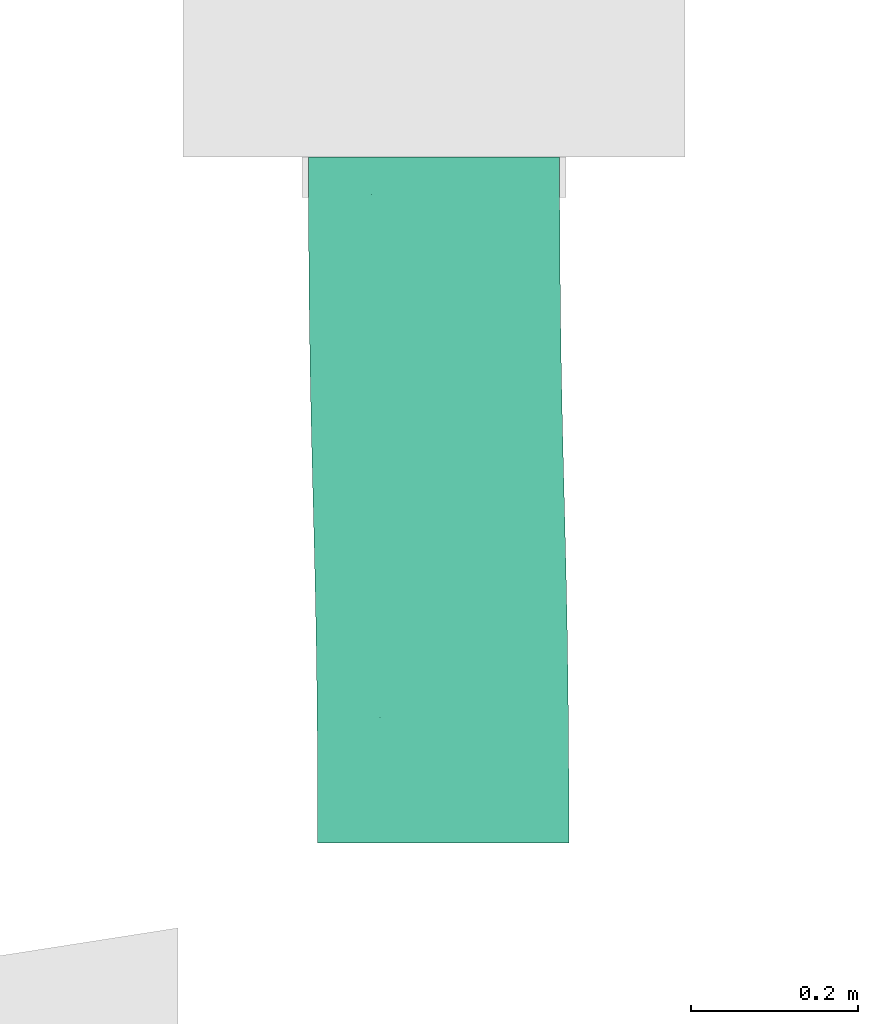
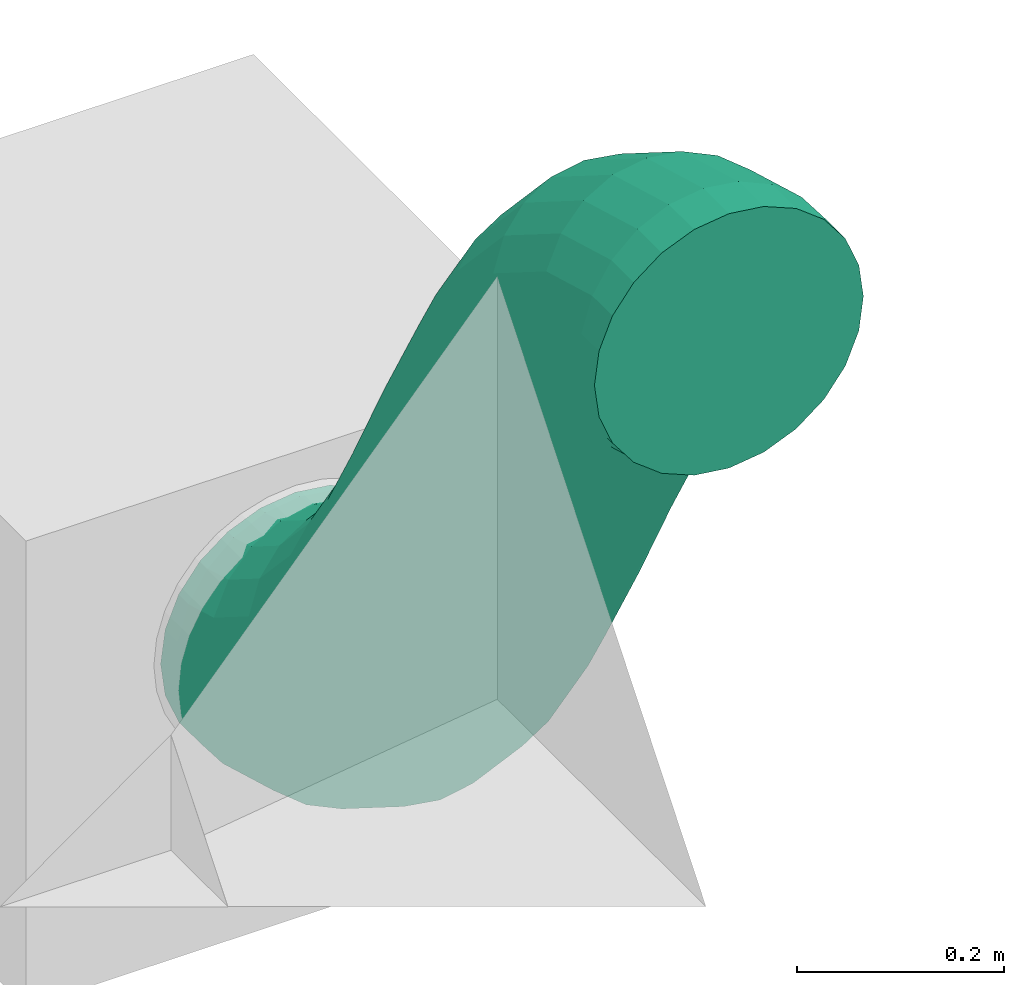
# One storey, part 48 of 60: 1 flow segment.
"""IFC2X3 building model written with IfcOpenShell, lengths in millimetres."""

from ifc_helpers import new_model, entity, si_unit, converted_unit, derived_unit, direction, frame, origin, place, context, subcontext, project, spatial, faceted_brep, type_object, element, save


model = new_model("IFC2X3")

# Units and contexts
model_context = context("Model", 3, precision=0.01, world=origin(), true_north=direction((6.123233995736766e-17, 1.0)))
body_context = subcontext(model_context, "Body", "Model", "MODEL_VIEW")
ifc_project = project(units=[si_unit("LENGTHUNIT", "METRE", prefix="MILLI"), converted_unit("PLANEANGLEUNIT", "DEGREE", entity("IfcPlaneAngleMeasure", 0.017453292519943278), si_unit("PLANEANGLEUNIT", "RADIAN"), dimensions=[0, 0, 0, 0, 0, 0, 0]), si_unit("AREAUNIT", "SQUARE_METRE"), derived_unit("THERMALTRANSMITTANCEUNIT", [(si_unit("MASSUNIT", "GRAM", prefix="KILO"), 1), (si_unit("THERMODYNAMICTEMPERATUREUNIT", "KELVIN"), -1), (si_unit("TIMEUNIT", "SECOND"), -3)])], contexts=[model_context])

# Site, building, storey
site_placement = place(None, origin())
site = spatial("IfcSite", under=ifc_project, at=site_placement, Name="Default", CompositionType="ELEMENT")
building_placement = place(site_placement, origin())
building = spatial("IfcBuilding", under=site, at=building_placement, Name="Praça Pedro II, 1301 - Centro (Sul), Teresina - PI, 64001-100", CompositionType="ELEMENT")
storey_placement = place(building_placement, frame((0.0, 0.0, 6040.0)))
storey = spatial("IfcBuildingStorey", under=building, at=storey_placement, Name="2PAV", CompositionType="ELEMENT", Elevation=6040.0)

# Flow segment
duct_segment_type = type_object("IfcDuctSegmentType", Name="Duto flexível redondo:Flexível - Redondo", PredefinedType="FLEXIBLESEGMENT")
flow_segment_placement = place(storey_placement, frame((29771.730736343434, -64130.808035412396, 2507.1988312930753)))
element("IfcFlowSegment", 1, at=flow_segment_placement, inside=storey, type_object=duct_segment_type, Name="Duto flexível redondo:Flexível - Redondo", ObjectType="Duto flexível redondo:Flexível - Redondo", context=body_context, shape_type="Brep", body=[
    faceted_brep([(45.52925505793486, 818.891090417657, 257.66128941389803), (76.59527223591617, 818.891090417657, 281.4990828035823), (112.77241547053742, 818.891090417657, 296.48414617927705), (151.59527223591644, 818.891090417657, 301.595272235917), (190.41812900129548, 818.891090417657, 296.48414617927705), (226.59527223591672, 818.891090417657, 281.4990828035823), (257.66128941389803, 818.891090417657, 257.66128941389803), (281.49908280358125, 818.891090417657, 226.59527223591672), (296.48414617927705, 818.891090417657, 190.4181290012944), (301.595272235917, 818.891090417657, 151.59527223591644), (296.48414617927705, 818.891090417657, 112.7724154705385), (281.49908280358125, 818.891090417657, 76.59527223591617), (257.66128941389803, 818.891090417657, 45.52925505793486), (226.59527223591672, 818.891090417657, 21.691461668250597), (190.41812900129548, 818.891090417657, 6.706398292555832), (151.59527223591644, 818.891090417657, 1.5952722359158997), (112.77241547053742, 818.891090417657, 6.706398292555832), (76.59527223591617, 818.891090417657, 21.691461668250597), (45.52925505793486, 818.891090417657, 45.529255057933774), (21.69146166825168, 818.891090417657, 76.59527223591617), (6.706398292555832, 818.891090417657, 112.77241547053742), (1.5952722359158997, 818.891090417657, 151.59527223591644), (6.706398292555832, 818.891090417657, 190.4181290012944), (21.69146166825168, 818.891090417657, 226.59527223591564), (296.48414617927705, 784.9730965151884, 112.77241547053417), (281.49908280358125, 779.9977517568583, 76.59527223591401), (257.66128941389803, 775.7050432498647, 45.529255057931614), (301.595272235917, 790.2920160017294, 151.59527223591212), (226.59527223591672, 772.3875119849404, 21.691461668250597), (190.41812900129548, 770.2712422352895, 6.706398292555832), (151.59527223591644, 769.5004542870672, 1.5952722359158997), (112.77241547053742, 770.1276760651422, 6.706398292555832), (76.59527223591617, 772.1101634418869, 21.691461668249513), (45.52925505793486, 775.312813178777, 45.529255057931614), (21.69146166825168, 779.5173699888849, 76.59527223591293), (6.706398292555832, 784.4373002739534, 112.77241547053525), (1.5952722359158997, 789.7373189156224, 151.59527223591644), (6.706398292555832, 795.0562384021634, 190.41812900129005), (21.69146166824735, 800.0315831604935, 226.59527223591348), (45.52925505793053, 804.3242916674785, 257.6612894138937), (112.77241547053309, 809.7580926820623, 296.4841461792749), (151.59527223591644, 810.5288806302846, 301.595272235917), (76.59527223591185, 807.6418229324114, 281.49908280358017), (226.59527223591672, 807.919171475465, 281.4990828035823), (257.66128941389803, 804.7165217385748, 257.6612894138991), (190.41812900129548, 809.9016588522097, 296.48414617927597), (296.48414617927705, 795.5920346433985, 190.41812900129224), (281.49908280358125, 800.511964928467, 226.59527223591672), (201.52068784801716, 0.0, 1117.6900426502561), (162.69783108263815, 0.0, 1122.801168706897), (123.87497431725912, 0.0, 1117.690042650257), (87.69783108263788, 0.0, 1102.7049792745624), (56.63181390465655, 0.0, 1078.8671858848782), (32.794020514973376, 0.0, 1047.8011687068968), (17.808957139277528, 0.0, 1011.6240254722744), (12.697831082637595, 0.0, 972.8011687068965), (17.808957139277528, 0.0, 933.9783119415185), (32.794020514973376, 0.0, 897.8011687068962), (56.63181390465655, 0.0, 866.7351515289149), (87.69783108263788, 0.0, 842.8973581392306), (123.87497431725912, 0.0, 827.9122947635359), (162.69783108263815, 0.0, 822.801168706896), (201.52068784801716, 0.0, 827.9122947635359), (237.69783108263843, 0.0, 842.8973581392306), (268.76384826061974, 0.0, 866.7351515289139), (292.6016416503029, 0.0, 897.8011687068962), (307.58670502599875, 0.0, 933.9783119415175), (312.6978310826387, 0.0, 972.8011687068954), (307.58670502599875, 0.0, 1011.6240254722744), (292.6016416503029, 0.0, 1047.8011687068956), (268.76384826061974, 0.0, 1078.8671858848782), (237.69783108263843, 0.0, 1102.7049792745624), (301.85178472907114, 722.2240848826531, 170.5683373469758), (296.7804434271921, 706.3479176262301, 134.6881783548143), (281.83259491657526, 691.4972687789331, 101.26364981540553), (258.0269103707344, 678.6841855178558, 72.572578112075), (226.98570785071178, 668.7818582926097, 50.57021236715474), (190.82439401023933, 662.4651143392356, 36.75597744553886), (152.0073026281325, 660.1644293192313, 32.07129062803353), (113.17975433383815, 662.0365911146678, 36.835405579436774), (76.98778237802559, 667.954014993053, 50.723655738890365), (45.89780983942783, 677.5134382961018, 72.78957980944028), (22.028566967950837, 690.0634021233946, 101.52942153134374), (7.006703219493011, 704.7486471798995, 134.98460818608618), (1.8559337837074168, 720.5683982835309, 170.87522409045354), (6.927275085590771, 736.4445655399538, 206.75538308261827), (21.87512359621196, 751.2952143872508, 240.17991162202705), (45.68080814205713, 764.1082976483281, 268.8709833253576), (112.88332450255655, 780.3273688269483, 304.68758399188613), (151.7004158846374, 782.6280538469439, 309.3722708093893), (76.72201066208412, 774.0106248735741, 290.87334907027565), (226.71993613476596, 774.8384681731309, 290.71990569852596), (257.8099086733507, 765.2790448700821, 268.6539816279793), (190.5279641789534, 780.7558920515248, 304.60815585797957), (296.70101529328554, 738.0438359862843, 206.45895325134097), (281.67915154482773, 752.7290810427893, 239.914139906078), (302.5567870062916, 639.0344993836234, 222.71415661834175), (297.56266776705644, 614.046203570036, 192.54576318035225), (282.68705317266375, 590.6720226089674, 164.46404963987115), (258.9436917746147, 570.5048683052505, 140.38273836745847), (227.95065441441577, 554.9190988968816, 121.94293093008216), (191.82006536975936, 544.9768588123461, 110.40126973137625), (153.0141645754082, 541.3556952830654, 106.54429990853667), (114.17751004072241, 544.3023846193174, 110.63486758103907), (77.95675559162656, 553.6161148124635, 122.39420732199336), (46.82028578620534, 568.6621705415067, 141.0209395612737), (22.889999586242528, 588.4151879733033, 165.24568327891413), (7.796706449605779, 611.5290316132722, 193.41756222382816), (2.568989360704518, 636.4285312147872, 223.61670940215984), (7.56310859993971, 661.4168270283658, 253.7851028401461), (22.438723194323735, 684.7910079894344, 281.866816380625), (46.18208459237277, 704.9581622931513, 305.9481276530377), (77.17512195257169, 720.5439317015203, 324.38793509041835), (113.30571099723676, 730.4861717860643, 335.9295962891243), (152.11161179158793, 734.107335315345, 339.78656611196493), (190.94826632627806, 731.1606459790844, 335.6959984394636), (227.1690207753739, 721.8469157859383, 323.9366586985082), (258.3054905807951, 706.8008600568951, 305.3099264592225), (297.32906991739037, 663.9339989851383, 252.9133037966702), (282.23577678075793, 687.0478426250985, 281.0851827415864), (303.6119440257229, 566.4166612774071, 300.75933323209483), (298.69867073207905, 535.8643994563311, 276.57074752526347), (283.8986798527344, 507.2856559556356, 254.08257702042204), (260.22056630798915, 482.6280249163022, 234.82735337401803), (229.2779544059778, 463.57188314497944, 220.11728825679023), (193.17953201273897, 451.41587521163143, 210.95484829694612), (154.3853469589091, 446.98841296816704, 207.96443863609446), (115.53915884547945, 450.5912206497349, 211.34985075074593), (79.28827119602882, 461.9787728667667, 220.8803743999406), (48.10312209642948, 480.37502675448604, 235.9065201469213), (24.108927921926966, 504.5263080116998, 255.40428099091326), (8.940853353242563, 532.7867467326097, 278.04491675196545), (3.6325776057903, 563.230440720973, 302.2855055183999), (8.545850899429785, 593.7827025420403, 326.4740912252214), (23.34584177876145, 622.361446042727, 348.9622617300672), (47.02395532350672, 647.0190770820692, 368.2174853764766), (77.96656722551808, 666.0752188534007, 382.9275504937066), (114.06498961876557, 678.2312267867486, 392.08999045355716), (152.85917467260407, 682.6586890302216, 395.0804001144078), (191.70536278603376, 679.0558813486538, 391.6949879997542), (227.95625043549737, 667.6683291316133, 382.16446435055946), (259.1413995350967, 649.2720752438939, 367.1383186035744), (298.3036682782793, 596.860355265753, 324.9999219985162), (283.1355937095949, 625.1207939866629, 347.6405577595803), (304.9188538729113, 501.3269827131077, 397.42552410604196), (300.05751944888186, 468.18794389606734, 377.07862089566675), (285.3061124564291, 437.18951583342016, 358.1839800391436), (261.669916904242, 410.4441901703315, 342.0292400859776), (230.75970045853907, 389.7746166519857, 329.7153198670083), (194.68194328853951, 376.58939255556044, 322.08139269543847), (155.8952849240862, 371.78706911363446, 319.6476980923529), (117.04297203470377, 375.69491673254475, 322.5800883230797), (80.77272553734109, 388.04662205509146, 330.6787258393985), (49.55630279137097, 408.00043677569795, 343.3917018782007), (25.521051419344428, 434.1965413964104, 359.8526481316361), (10.304934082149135, 464.8497146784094, 378.93977831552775), (4.944904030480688, 497.8709935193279, 399.35233605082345), (9.806238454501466, 531.010032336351, 419.6992392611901), (24.55764544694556, 562.0084603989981, 438.5938801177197), (48.193840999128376, 588.7537860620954, 454.7486200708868), (79.10405744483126, 609.4233595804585, 467.0625402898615), (115.18181461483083, 622.6085836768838, 474.6964674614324), (153.9684729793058, 627.4109071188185, 477.1301620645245), (192.82078586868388, 623.5030594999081, 474.19777183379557), (229.0910323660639, 611.1513541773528, 466.0991343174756), (260.307455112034, 591.1975394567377, 453.38615827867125), (299.5588238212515, 534.3482615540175, 417.83808184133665), (284.34270648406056, 565.0014348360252, 436.92521202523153), (306.37735167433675, 440.76509735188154, 505.3039880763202), (301.5403276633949, 406.6166058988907, 486.75521580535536), (286.81166075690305, 374.6739306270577, 469.5425559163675), (263.1950852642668, 347.1139120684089, 454.8390227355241), (232.30003177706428, 325.81471994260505, 443.64663775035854), (196.2319471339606, 312.22785899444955, 436.7281435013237), (157.44881169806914, 307.27925134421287, 434.5550239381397), (118.59363205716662, 311.3061364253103, 437.2753735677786), (82.31432449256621, 324.034088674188, 444.7038050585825), (51.083263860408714, 344.59571917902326, 456.3340830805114), (27.0287953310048, 371.5897868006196, 471.3736234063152), (11.790191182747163, 403.17669044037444, 488.7975062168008), (6.405937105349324, 437.20383481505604, 507.418322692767), (11.242961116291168, 471.35232626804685, 525.9670949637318), (25.971628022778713, 503.29500153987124, 543.1797548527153), (49.588203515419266, 530.8550200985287, 557.883288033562), (80.48325700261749, 552.1542122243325, 569.0756730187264), (116.55134164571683, 565.7410731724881, 575.9941672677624), (155.33447708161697, 570.689680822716, 578.1672868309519), (194.1896567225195, 566.6627957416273, 575.4469372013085), (230.4689642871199, 553.9348434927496, 568.0185057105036), (261.70002491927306, 533.3732129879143, 556.3882276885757), (300.9930975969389, 474.79224172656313, 523.9248045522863), (285.75449344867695, 506.37914536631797, 541.3486873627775), (303.0501422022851, 347.5387641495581, 598.4293459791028), (288.3214752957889, 315.5960888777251, 581.2166860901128), (307.8871662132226, 381.68725560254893, 616.9781182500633), (264.70489980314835, 288.0360703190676, 566.5131529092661), (233.80984631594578, 266.7368781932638, 555.3207679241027), (197.74176167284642, 253.15001724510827, 548.4022736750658), (158.95862623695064, 248.20140959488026, 546.2291541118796), (120.10344659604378, 252.22829467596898, 548.949503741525), (83.82413903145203, 264.9562469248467, 556.3779352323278), (52.593078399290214, 285.51787742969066, 568.0082132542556), (13.300005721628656, 344.09884869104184, 600.4716363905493), (7.91575164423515, 378.1259930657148, 619.09245286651), (28.538609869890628, 312.511945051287, 583.0477535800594), (12.752775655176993, 412.2744845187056, 637.6412251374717), (27.48144256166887, 444.21715979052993, 654.8538850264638), (51.09801805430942, 471.77717834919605, 669.5574182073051), (81.99307154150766, 493.0763704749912, 680.7498031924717), (118.06115618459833, 506.6632314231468, 687.6682974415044), (156.8442916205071, 511.61183907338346, 689.8414170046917), (195.69947126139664, 507.5849539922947, 687.1210673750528), (231.97877882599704, 494.85700174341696, 679.69263588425), (263.2098394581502, 474.2953712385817, 668.0623578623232), (287.2643079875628, 447.30130361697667, 653.0228175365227), (302.5029121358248, 415.71439997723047, 635.5989347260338), (304.48686486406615, 287.8810580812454, 704.697201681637), (289.7354578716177, 256.8826300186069, 685.8025608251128), (309.3481992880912, 321.0200968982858, 725.0441048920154), (266.0992623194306, 230.13730435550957, 669.6478208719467), (235.189045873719, 209.4677308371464, 657.3339006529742), (199.1112887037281, 196.28250674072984, 649.6999734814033), (160.32463033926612, 191.48018329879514, 647.2662788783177), (121.47231744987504, 195.3880309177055, 650.1986691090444), (85.20207095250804, 207.73973624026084, 658.2973066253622), (53.98564820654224, 227.69355096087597, 671.0102826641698), (14.734279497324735, 284.54282886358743, 706.5583591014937), (9.374249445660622, 317.56410770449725, 726.9709168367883), (29.95039683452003, 253.88965558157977, 687.471228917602), (14.23558386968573, 350.703146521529, 747.3178200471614), (28.986990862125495, 381.7015745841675, 766.2124609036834), (52.623186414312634, 408.44690024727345, 782.3672008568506), (83.53340286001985, 429.1164737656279, 794.6811210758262), (119.61116003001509, 442.3016978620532, 802.3150482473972), (158.3978183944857, 447.10402130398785, 804.748742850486), (197.25013128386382, 443.1961736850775, 801.8163526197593), (233.52037778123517, 430.84446836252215, 793.7177151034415), (264.7368005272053, 410.89065364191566, 781.0047390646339), (288.7720518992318, 384.6945490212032, 764.5437928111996), (303.9881692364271, 354.0413757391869, 745.4566626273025), (305.74725241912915, 225.10838787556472, 797.9223497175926), (290.9472615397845, 196.52964437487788, 775.4341792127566), (310.6605257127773, 255.6606496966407, 822.1109354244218), (267.2691479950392, 171.87201333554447, 756.1789555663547), (236.3265360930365, 152.81587156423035, 741.468890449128), (200.22811369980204, 140.6598636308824, 732.3064504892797), (161.4339286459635, 136.23240138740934, 729.3160408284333), (122.58774053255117, 139.83520906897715, 732.7014529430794), (86.33685288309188, 151.22276128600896, 742.231976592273), (55.15170378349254, 169.61901517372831, 757.2581223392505), (15.989435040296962, 222.03073515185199, 799.3965189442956), (10.6811592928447, 252.4744291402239, 823.6371077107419), (31.15750960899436, 193.7702964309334, 776.7558831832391), (15.594432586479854, 283.02669096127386, 847.8256934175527), (30.39442346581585, 311.605434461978, 870.3138639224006), (54.07253701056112, 336.2630655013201, 889.5690875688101), (85.01514891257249, 355.31920727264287, 904.2791526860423), (121.1135713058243, 367.4752152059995, 913.4415926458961), (159.90775635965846, 371.90267744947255, 916.4320023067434), (198.75394447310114, 368.29986976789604, 913.0465901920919), (235.00483212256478, 356.9123175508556, 903.5160665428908), (266.1899812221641, 338.51606366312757, 888.4899207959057), (290.18417539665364, 314.36478240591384, 868.9921599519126), (305.35224996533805, 286.1043436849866, 846.3515241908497), (306.7299947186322, 157.47426338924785, 870.6113381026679), (291.8543801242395, 134.10008242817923, 842.5296245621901), (311.7241139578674, 182.46255920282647, 900.7797315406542), (268.11101872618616, 113.9329281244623, 818.4483132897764), (237.11798136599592, 98.34715871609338, 800.0085058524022), (200.98739232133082, 88.40491863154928, 788.4668446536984), (162.1814915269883, 84.78375510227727, 784.6098748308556), (123.34483699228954, 87.73044443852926, 788.7004425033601), (87.12408254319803, 97.04417463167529, 800.4597822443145), (55.98761273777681, 112.09023036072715, 819.0865144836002), (16.964033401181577, 154.95709143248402, 871.4831371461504), (11.736316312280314, 179.85659103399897, 901.682284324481), (32.05732653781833, 131.8432477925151, 843.3112582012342), (16.73043555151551, 204.8448868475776, 931.8506777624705), (31.60605014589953, 228.2190678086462, 959.932391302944), (55.34941154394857, 248.38622211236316, 984.0137025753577), (86.34244890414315, 263.97199152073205, 1002.4535100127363), (122.47303794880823, 273.91423160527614, 1013.9951712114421), (161.2789387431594, 277.5353951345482, 1017.8521410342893), (200.1155932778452, 274.5887057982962, 1013.7615733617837), (236.33634772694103, 265.27497560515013, 1002.0022336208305), (267.4728175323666, 250.22891987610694, 983.3755013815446), (291.4031037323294, 230.47590244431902, 959.1507576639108), (306.49639686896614, 207.36205880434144, 930.9788787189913), (307.3658282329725, 82.44652487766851, 917.6410578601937), (292.41797972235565, 67.59587603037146, 884.2165293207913), (312.43716953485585, 98.32269213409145, 953.521216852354), (268.6122951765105, 54.782792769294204, 855.5254576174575), (237.57109265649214, 44.880465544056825, 833.5230918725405), (201.40977881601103, 38.563721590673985, 819.708856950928), (162.59268743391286, 36.26303657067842, 815.0241701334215), (123.76513913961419, 38.135198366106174, 819.7882850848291), (87.57316718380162, 44.05262224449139, 833.6765352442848), (56.48319464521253, 53.612045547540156, 855.7424593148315), (17.592088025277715, 80.84725443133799, 917.9374876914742), (12.441318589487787, 96.6670055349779, 953.8281035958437), (32.61395177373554, 66.16200937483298, 884.4823010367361), (17.512659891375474, 112.54317279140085, 989.7082625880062), (32.460508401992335, 127.39382163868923, 1023.1327911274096), (56.2661929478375, 140.20690489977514, 1051.8238628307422), (87.30739546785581, 150.10923212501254, 1073.8262285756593), (123.46870930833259, 156.42597607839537, 1087.6404634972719), (162.28580069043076, 158.72666109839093, 1092.3251503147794), (201.11334898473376, 156.85449930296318, 1087.561035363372), (237.305320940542, 150.93707542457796, 1073.6727852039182), (268.39529347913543, 141.3776521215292, 1051.6068611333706), (292.26453635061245, 128.82768829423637, 1022.867019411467), (307.28640009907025, 114.14244323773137, 989.4118327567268), (307.58670502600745, 23.834852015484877, 933.9783119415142), (292.6016416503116, 18.85950725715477, 897.8011687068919), (312.6978310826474, 29.153771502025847, 972.8011687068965), (268.76384826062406, 14.566798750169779, 866.7351515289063), (201.5206878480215, 9.132997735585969, 827.9122947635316), (162.69783108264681, 8.36220978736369, 822.8011687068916), (237.69783108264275, 11.249267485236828, 842.8973581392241), (87.69783108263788, 10.971918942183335, 842.8973581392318), (56.63181390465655, 14.174568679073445, 866.735151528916), (123.87497431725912, 8.989431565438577, 827.9122947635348), (17.80895713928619, 23.299055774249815, 933.9783119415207), (12.697831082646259, 28.59907441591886, 972.8011687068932), (32.79402051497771, 18.379125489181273, 897.8011687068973), (17.80895713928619, 33.917993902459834, 1011.6240254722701), (32.79402051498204, 38.89333866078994, 1047.8011687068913), (56.631813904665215, 43.18604716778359, 1078.8671858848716), (87.6978310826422, 46.503578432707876, 1102.7049792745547), (123.87497431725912, 48.61984818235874, 1117.6900426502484), (162.69783108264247, 49.390636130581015, 1122.8011687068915), (201.52068784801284, 48.76341435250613, 1117.6900426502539), (237.69783108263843, 46.780926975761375, 1102.7049792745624), (268.76384826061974, 43.57827723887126, 1078.8671858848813), (292.6016416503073, 39.373720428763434, 1047.8011687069), (307.5867050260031, 34.453790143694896, 1011.6240254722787)], [[[0, 1, 2, 3, 4, 5, 6, 7, 8, 9, 10, 11, 12, 13, 14, 15, 16, 17, 18, 19, 20, 21, 22, 23]], [[11, 10, 24, 25]], [[12, 11, 25, 26]], [[9, 27, 24, 10]], [[14, 13, 28, 29]], [[15, 14, 29, 30]], [[12, 26, 28, 13]], [[15, 30, 31, 16]], [[16, 31, 32, 17]], [[17, 32, 33, 18]], [[19, 34, 35, 20]], [[20, 35, 36, 21]], [[18, 33, 34, 19]], [[37, 38, 23, 22]], [[36, 37, 22, 21]], [[23, 38, 39, 0]], [[40, 41, 3, 2]], [[42, 40, 2, 1]], [[0, 39, 42, 1]], [[5, 43, 44, 6]], [[45, 43, 5, 4]], [[3, 41, 45, 4]], [[46, 27, 9, 8]], [[47, 46, 8, 7]], [[44, 47, 7, 6]], [[48, 49, 50, 51, 52, 53, 54, 55, 56, 57, 58, 59, 60, 61, 62, 63, 64, 65, 66, 67, 68, 69, 70, 71]], [[24, 27, 72, 73]], [[25, 24, 73, 74]], [[26, 25, 74, 75]], [[29, 28, 76, 77]], [[30, 29, 77, 78]], [[75, 76, 28, 26]], [[30, 78, 79, 31]], [[31, 79, 80, 32]], [[32, 80, 81, 33]], [[33, 81, 82, 34]], [[34, 82, 83, 35]], [[84, 36, 35, 83]], [[85, 86, 38, 37]], [[84, 85, 37, 36]], [[38, 86, 87, 39]], [[88, 89, 41, 40]], [[90, 88, 40, 42]], [[42, 39, 87, 90]], [[43, 91, 92, 44]], [[93, 91, 43, 45]], [[41, 89, 93, 45]], [[94, 72, 27, 46]], [[95, 94, 46, 47]], [[44, 92, 95, 47]], [[72, 96, 97, 73]], [[73, 97, 98, 74]], [[99, 75, 74, 98]], [[76, 100, 101, 77]], [[77, 101, 102, 78]], [[100, 76, 75, 99]], [[79, 78, 102, 103]], [[80, 79, 103, 104]], [[104, 105, 81, 80]], [[82, 81, 105, 106]], [[83, 82, 106, 107]], [[84, 83, 107, 108]], [[109, 110, 86, 85]], [[108, 109, 85, 84]], [[87, 86, 110, 111]], [[112, 113, 88, 90]], [[111, 112, 90, 87]], [[89, 88, 113, 114]], [[115, 116, 91, 93]], [[114, 115, 93, 89]], [[117, 92, 91, 116]], [[118, 96, 72, 94]], [[119, 118, 94, 95]], [[119, 95, 92, 117]], [[96, 120, 121, 97]], [[97, 121, 122, 98]], [[123, 99, 98, 122]], [[100, 124, 125, 101]], [[101, 125, 126, 102]], [[124, 100, 99, 123]], [[103, 102, 126, 127]], [[104, 103, 127, 128]], [[128, 129, 105, 104]], [[106, 105, 129, 130]], [[107, 106, 130, 131]], [[108, 107, 131, 132]], [[133, 134, 110, 109]], [[132, 133, 109, 108]], [[111, 110, 134, 135]], [[136, 137, 113, 112]], [[135, 136, 112, 111]], [[114, 113, 137, 138]], [[139, 140, 116, 115]], [[138, 139, 115, 114]], [[141, 117, 116, 140]], [[142, 120, 96, 118]], [[143, 142, 118, 119]], [[143, 119, 117, 141]], [[120, 144, 145, 121]], [[121, 145, 146, 122]], [[147, 123, 122, 146]], [[124, 148, 149, 125]], [[125, 149, 150, 126]], [[148, 124, 123, 147]], [[127, 126, 150, 151]], [[128, 127, 151, 152]], [[152, 153, 129, 128]], [[130, 129, 153, 154]], [[131, 130, 154, 155]], [[132, 131, 155, 156]], [[157, 158, 134, 133]], [[156, 157, 133, 132]], [[135, 134, 158, 159]], [[160, 161, 137, 136]], [[159, 160, 136, 135]], [[138, 137, 161, 162]], [[163, 164, 140, 139]], [[162, 163, 139, 138]], [[165, 141, 140, 164]], [[166, 144, 120, 142]], [[167, 166, 142, 143]], [[167, 143, 141, 165]], [[144, 168, 169, 145]], [[145, 169, 170, 146]], [[171, 147, 146, 170]], [[148, 172, 173, 149]], [[149, 173, 174, 150]], [[172, 148, 147, 171]], [[151, 150, 174, 175]], [[152, 151, 175, 176]], [[176, 177, 153, 152]], [[154, 153, 177, 178]], [[155, 154, 178, 179]], [[156, 155, 179, 180]], [[181, 182, 158, 157]], [[180, 181, 157, 156]], [[159, 158, 182, 183]], [[184, 185, 161, 160]], [[183, 184, 160, 159]], [[162, 161, 185, 186]], [[187, 188, 164, 163]], [[186, 187, 163, 162]], [[189, 165, 164, 188]], [[190, 168, 144, 166]], [[191, 190, 166, 167]], [[191, 167, 165, 189]], [[192, 193, 170, 169]], [[194, 192, 169, 168]], [[195, 171, 170, 193]], [[196, 197, 173, 172]], [[196, 172, 171, 195]], [[198, 174, 173, 197]], [[199, 200, 176, 175]], [[198, 199, 175, 174]], [[200, 201, 177, 176]], [[202, 203, 180, 179]], [[204, 202, 179, 178]], [[201, 204, 178, 177]], [[181, 180, 203, 205]], [[182, 181, 205, 206]], [[183, 182, 206, 207]], [[185, 184, 208, 209]], [[186, 185, 209, 210]], [[207, 208, 184, 183]], [[186, 210, 211, 187]], [[187, 211, 212, 188]], [[213, 189, 188, 212]], [[189, 213, 214, 191]], [[191, 214, 215, 190]], [[194, 168, 190, 215]], [[216, 217, 193, 192]], [[218, 216, 192, 194]], [[219, 195, 193, 217]], [[220, 221, 197, 196]], [[220, 196, 195, 219]], [[222, 198, 197, 221]], [[223, 224, 200, 199]], [[222, 223, 199, 198]], [[201, 200, 224, 225]], [[226, 227, 203, 202]], [[228, 226, 202, 204]], [[225, 228, 204, 201]], [[205, 203, 227, 229]], [[206, 205, 229, 230]], [[207, 206, 230, 231]], [[209, 208, 232, 233]], [[210, 209, 233, 234]], [[231, 232, 208, 207]], [[210, 234, 235, 211]], [[211, 235, 236, 212]], [[212, 236, 237, 213]], [[213, 237, 238, 214]], [[214, 238, 239, 215]], [[218, 194, 215, 239]], [[240, 241, 217, 216]], [[242, 240, 216, 218]], [[243, 219, 217, 241]], [[244, 245, 221, 220]], [[244, 220, 219, 243]], [[246, 222, 221, 245]], [[247, 248, 224, 223]], [[246, 247, 223, 222]], [[225, 224, 248, 249]], [[250, 251, 227, 226]], [[252, 250, 226, 228]], [[249, 252, 228, 225]], [[229, 227, 251, 253]], [[230, 229, 253, 254]], [[231, 230, 254, 255]], [[233, 232, 256, 257]], [[234, 233, 257, 258]], [[255, 256, 232, 231]], [[234, 258, 259, 235]], [[235, 259, 260, 236]], [[236, 260, 261, 237]], [[237, 261, 262, 238]], [[238, 262, 263, 239]], [[242, 218, 239, 263]], [[264, 265, 241, 240]], [[266, 264, 240, 242]], [[267, 243, 241, 265]], [[268, 269, 245, 244]], [[268, 244, 243, 267]], [[270, 246, 245, 269]], [[271, 272, 248, 247]], [[270, 271, 247, 246]], [[249, 248, 272, 273]], [[274, 275, 251, 250]], [[276, 274, 250, 252]], [[273, 276, 252, 249]], [[253, 251, 275, 277]], [[254, 253, 277, 278]], [[255, 254, 278, 279]], [[257, 256, 280, 281]], [[258, 257, 281, 282]], [[279, 280, 256, 255]], [[258, 282, 283, 259]], [[259, 283, 284, 260]], [[260, 284, 285, 261]], [[261, 285, 286, 262]], [[262, 286, 287, 263]], [[266, 242, 263, 287]], [[288, 289, 265, 264]], [[290, 288, 264, 266]], [[291, 267, 265, 289]], [[292, 293, 269, 268]], [[292, 268, 267, 291]], [[294, 270, 269, 293]], [[295, 296, 272, 271]], [[294, 295, 271, 270]], [[273, 272, 296, 297]], [[298, 299, 275, 274]], [[300, 298, 274, 276]], [[297, 300, 276, 273]], [[277, 275, 299, 301]], [[278, 277, 301, 302]], [[279, 278, 302, 303]], [[281, 280, 304, 305]], [[282, 281, 305, 306]], [[303, 304, 280, 279]], [[282, 306, 307, 283]], [[283, 307, 308, 284]], [[284, 308, 309, 285]], [[285, 309, 310, 286]], [[286, 310, 311, 287]], [[290, 266, 287, 311]], [[312, 313, 289, 288]], [[314, 312, 288, 290]], [[291, 289, 313, 315]], [[316, 317, 294, 293]], [[318, 316, 293, 292]], [[291, 315, 318, 292]], [[319, 320, 297, 296]], [[321, 319, 296, 295]], [[317, 321, 295, 294]], [[322, 323, 299, 298]], [[324, 322, 298, 300]], [[300, 297, 320, 324]], [[299, 323, 325, 301]], [[301, 325, 326, 302]], [[327, 303, 302, 326]], [[304, 328, 329, 305]], [[305, 329, 330, 306]], [[328, 304, 303, 327]], [[307, 306, 330, 331]], [[308, 307, 331, 332]], [[332, 333, 309, 308]], [[310, 309, 333, 334]], [[311, 310, 334, 335]], [[290, 311, 335, 314]], [[312, 314, 67, 66]], [[313, 312, 66, 65]], [[315, 313, 65, 64]], [[62, 61, 317, 316]], [[63, 62, 316, 318]], [[315, 64, 63, 318]], [[317, 61, 60, 321]], [[321, 60, 59, 319]], [[319, 59, 58, 320]], [[324, 57, 56, 322]], [[322, 56, 55, 323]], [[324, 320, 58, 57]], [[323, 55, 54, 325]], [[325, 54, 53, 326]], [[326, 53, 52, 327]], [[328, 51, 50, 329]], [[329, 50, 49, 330]], [[327, 52, 51, 328]], [[331, 330, 49, 48]], [[332, 331, 48, 71]], [[333, 332, 71, 70]], [[335, 334, 69, 68]], [[314, 335, 68, 67]], [[70, 69, 334, 333]]]),
])

save(model, "model.ifc")
